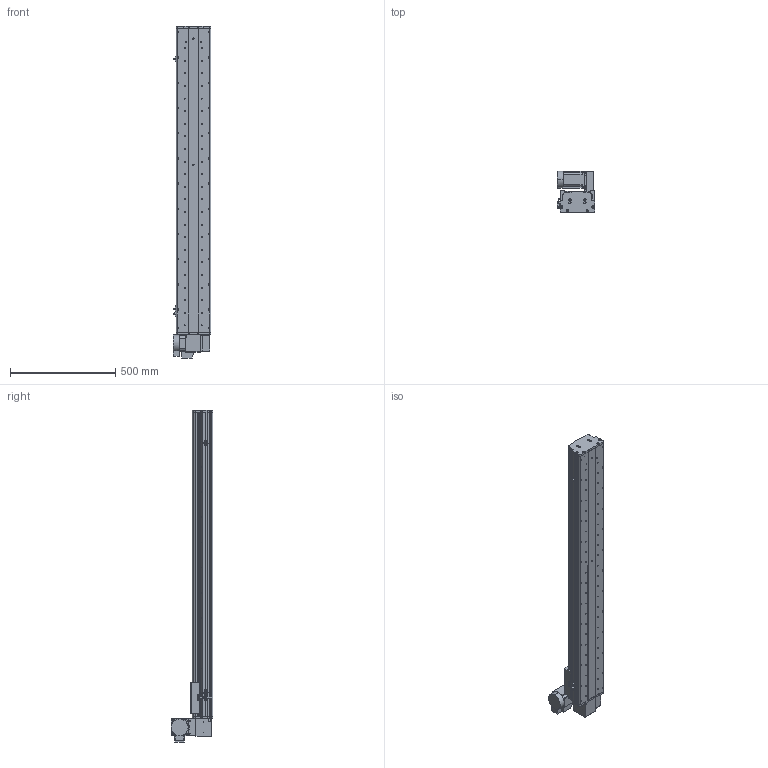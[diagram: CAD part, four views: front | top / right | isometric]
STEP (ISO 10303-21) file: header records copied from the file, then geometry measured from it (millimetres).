
FILE_DESCRIPTION (( 'STEP AP214' ), '1' );
FILE_NAME ('KSD165B-S1200-MRU-CM.STEP', '2017-10-17T02:43:44', ( '微软用户' ), ( '微软中国' ), 'SwSTEP 2.0', 'SolidWorks 2014', '' );
FILE_SCHEMA (( 'AUTOMOTIVE_DESIGN' ));
Length unit declared in the file: millimetre
Products named in the file (17): U倰嫖萇EEㄜSX672; 覜茼え68遵圉猾敕; KSD165模组-同步带-防撞垫2; KSD165模组同步带-防撞垫1; KSD165耀郪-ヶ傷啣1-肮祭湍; KSD165模组-后端板1-同步带; KSD165模组-同步带滑动座-最新版; KSD165B-S1200-MRU-CM; 130宽模组马达安装板连板上下折丝杆同步带; 130宽模组保护罩上下左右折-同步带; HTPA26S5M250-A-H8 750W萇儂蚚; HTPA26S5M250-A-H8 400W萇儂蚚 ; KSD165模组-同步带防尘盖1-1200行程; KSD165模组同步带底板-1200行程; 拸秶雄ん750W侜督萇儂; 165宽马达安装板同步带右; U倰嫖萇假蚾璃
Assembly tree (20 placements, depth 2):
  KSD165B-S1200-MRU-CM
    KSD165模组-同步带滑动座-最新版
    KSD165模组-后端板1-同步带
    KSD165耀郪-ヶ傷啣1-肮祭湍
    KSD165模组同步带-防撞垫1
    KSD165模组-同步带-防撞垫2
    覜茼え68遵圉猾敕
    U倰嫖萇EEㄜSX672  x3
    U倰嫖萇假蚾璃  x3
    165宽马达安装板同步带右
    拸秶雄ん750W侜督萇儂
    KSD165模组同步带底板-1200行程
    KSD165模组-同步带防尘盖1-1200行程
    HTPA26S5M250-A-H8 400W萇儂蚚 
    HTPA26S5M250-A-H8 750W萇儂蚚
    130宽模组保护罩上下左右折-同步带
    130宽模组马达安装板连板上下折丝杆同步带
Bounding box: 178.7 x 198 x 1580.5 mm (x, y, z)
Volume: 8817096.2 mm3; surface area: 2054163.4 mm2
Topology: 21 solids, 21 shells, 2007 faces, 5676 edges, 3708 vertices
Faces by surface type: cylinder 1303, plane 592, cone 112
Entity records: 65620 total; most frequent: CARTESIAN_POINT 13468, DIRECTION 10744, ORIENTED_EDGE 10012, EDGE_CURVE 5006, AXIS2_PLACEMENT_3D 4222, VERTEX_POINT 3300, CIRCLE 2412, LINE 2300
